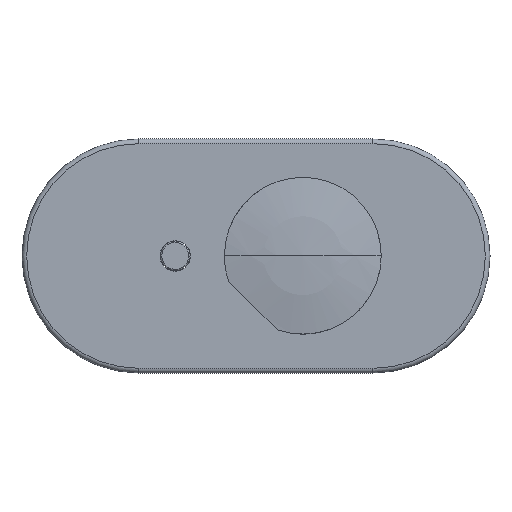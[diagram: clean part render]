
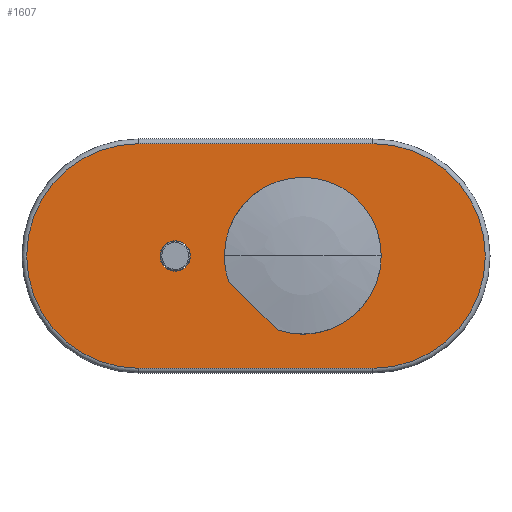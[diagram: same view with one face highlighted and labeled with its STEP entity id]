
A CAD part, top view. The second image highlights one B-rep face of the part: STEP entity #1607.
In plain terms, the highlighted planar face has unit normal (0, 0, 1).
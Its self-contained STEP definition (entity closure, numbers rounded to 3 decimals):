
#782=DIRECTION('',(1.,0.,0.));
#783=VECTOR('',#782,100.);
#784=CARTESIAN_POINT('',(-70.,-48.,27.));
#785=LINE('',#784,#783);
#786=CARTESIAN_POINT('',(-70.,0.,27.));
#787=DIRECTION('',(0.,0.,1.));
#788=DIRECTION('',(0.,1.,0.));
#789=AXIS2_PLACEMENT_3D('',#786,#787,#788);
#791=DIRECTION('',(-1.,0.,0.));
#792=VECTOR('',#791,100.);
#793=CARTESIAN_POINT('',(30.,48.,27.));
#794=LINE('',#793,#792);
#795=CARTESIAN_POINT('',(30.,0.,27.));
#796=DIRECTION('',(0.,0.,1.));
#797=DIRECTION('',(0.,-1.,0.));
#798=AXIS2_PLACEMENT_3D('',#795,#796,#797);
#800=CARTESIAN_POINT('',(0.,0.,27.));
#801=DIRECTION('',(0.,0.,-1.));
#802=DIRECTION('',(0.,1.,0.));
#803=AXIS2_PLACEMENT_3D('',#800,#801,#802);
#805=CARTESIAN_POINT('',(0.,0.,27.));
#806=DIRECTION('',(0.,0.,-1.));
#807=DIRECTION('',(0.,-1.,0.));
#808=AXIS2_PLACEMENT_3D('',#805,#806,#807);
#810=CARTESIAN_POINT('',(-54.5,0.,27.));
#811=DIRECTION('',(0.,0.,-1.));
#812=DIRECTION('',(0.,1.,0.));
#813=AXIS2_PLACEMENT_3D('',#810,#811,#812);
#815=CARTESIAN_POINT('',(-54.5,0.,27.));
#816=DIRECTION('',(0.,0.,-1.));
#817=DIRECTION('',(0.,-1.,0.));
#818=AXIS2_PLACEMENT_3D('',#815,#816,#817);
#1060=CARTESIAN_POINT('',(0.,20.5,27.));
#1062=VERTEX_POINT('',#1060);
#1064=CARTESIAN_POINT('',(0.,-20.5,27.));
#1066=VERTEX_POINT('',#1064);
#1068=CARTESIAN_POINT('',(-54.5,6.5,27.));
#1070=VERTEX_POINT('',#1068);
#1072=CARTESIAN_POINT('',(-54.5,-6.5,27.));
#1074=VERTEX_POINT('',#1072);
#1131=CARTESIAN_POINT('',(-70.,-48.,27.));
#1132=CARTESIAN_POINT('',(30.,-48.,27.));
#1133=VERTEX_POINT('',#1131);
#1134=VERTEX_POINT('',#1132);
#1143=CARTESIAN_POINT('',(30.,48.,27.));
#1144=CARTESIAN_POINT('',(-70.,48.,27.));
#1145=VERTEX_POINT('',#1143);
#1146=VERTEX_POINT('',#1144);
#1581=CARTESIAN_POINT('',(-20.,0.,27.));
#1582=DIRECTION('',(0.,0.,1.));
#1583=DIRECTION('',(-1.,0.,0.));
#1584=AXIS2_PLACEMENT_3D('',#1581,#1582,#1583);
#1585=PLANE('',#1584);
#1587=ORIENTED_EDGE('',*,*,#1586,.F.);
#1589=ORIENTED_EDGE('',*,*,#1588,.F.);
#1591=ORIENTED_EDGE('',*,*,#1590,.F.);
#1592=ORIENTED_EDGE('',*,*,#1571,.F.);
#1593=EDGE_LOOP('',(#1587,#1589,#1591,#1592));
#1594=FACE_OUTER_BOUND('',#1593,.F.);
#1596=ORIENTED_EDGE('',*,*,#1595,.F.);
#1598=ORIENTED_EDGE('',*,*,#1597,.F.);
#1599=EDGE_LOOP('',(#1596,#1598));
#1600=FACE_BOUND('',#1599,.F.);
#1602=ORIENTED_EDGE('',*,*,#1601,.F.);
#1604=ORIENTED_EDGE('',*,*,#1603,.F.);
#1605=EDGE_LOOP('',(#1602,#1604));
#1606=FACE_BOUND('',#1605,.F.);
#1607=ADVANCED_FACE('',(#1594,#1600,#1606),#1585,.T.);
#790=CIRCLE('',#789,48.);
#799=CIRCLE('',#798,48.);
#804=CIRCLE('',#803,20.5);
#809=CIRCLE('',#808,20.5);
#814=CIRCLE('',#813,6.5);
#819=CIRCLE('',#818,6.5);
#1571=EDGE_CURVE('',#1134,#1145,#799,.T.);
#1586=EDGE_CURVE('',#1133,#1134,#785,.T.);
#1588=EDGE_CURVE('',#1146,#1133,#790,.T.);
#1590=EDGE_CURVE('',#1145,#1146,#794,.T.);
#1595=EDGE_CURVE('',#1062,#1066,#804,.T.);
#1597=EDGE_CURVE('',#1066,#1062,#809,.T.);
#1601=EDGE_CURVE('',#1070,#1074,#814,.T.);
#1603=EDGE_CURVE('',#1074,#1070,#819,.T.);
